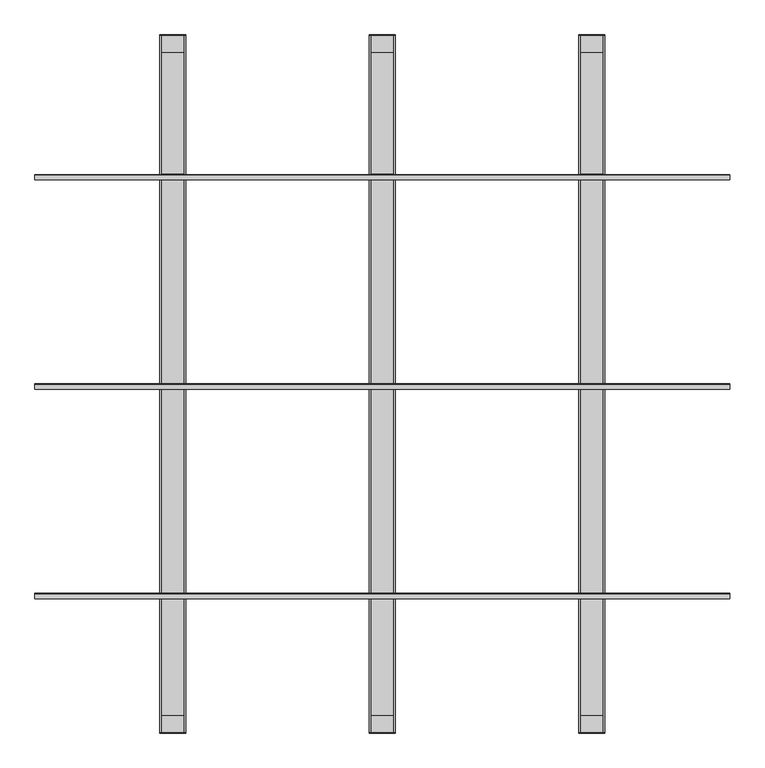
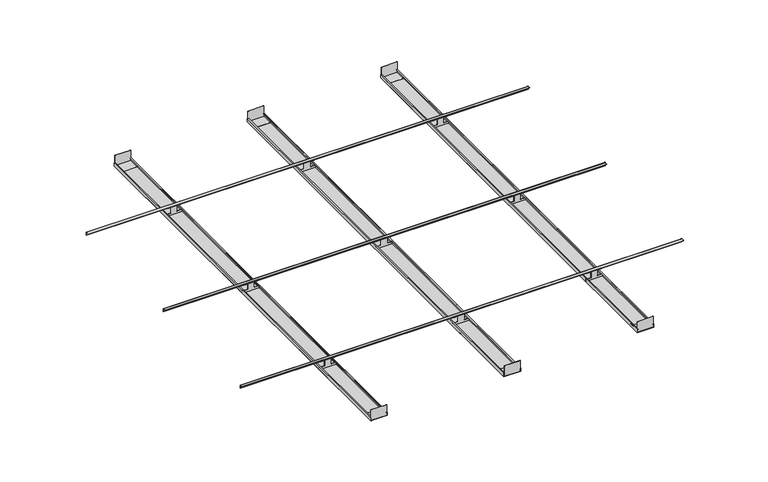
"""IFC4 building model written with IfcOpenShell, lengths in millimetres: proxy geometry, durlum_S5-150_RHOMBOS : durlum_S5-150_RHOMBOS."""

from ifc_helpers import new_model, si_unit, point, frame, frame_2d, origin, place, context, project, spatial, polyline, circle_curve, trimmed, segment, composite_curve, outline, extrude, source, transform, mapped, element, save


def generic_models_2a6c8002(model_context):
    return source(origin(), model_context, "Body", "SweptSolid", [
        extrude(outline(polyline([(72.0, 1900.0), (72.0, 1998.75), (73.25, 1998.75), (73.25, 1900.0), (72.0, 1900.0)])), frame((0.0, 0.0, 3801.4976307), z_axis=(0.0, 0.0, 1.0), x_axis=(1.0, 0.0, 0.0)), (0.0, 0.0, 1.0), 22.9482224),
        extrude(outline(polyline([(-72.0, 1900.0), (-73.25, 1900.0), (-73.25, 1998.75), (-72.0, 1998.75), (-72.0, 1900.0)])), frame((0.0, 0.0, 3801.4976307), z_axis=(0.0, 0.0, 1.0), x_axis=(1.0, 0.0, 0.0)), (0.0, 0.0, 1.0), 22.9482224),
        extrude(outline(polyline([(2000.0, 3801.4976307), (1900.0, 3801.4976307), (1900.0, 3802.7476307), (1998.75, 3802.7476307), (1998.75, 3901.4976307), (2000.0, 3901.4976307), (2000.0, 3801.4976307)])), frame((-72.0, 0.0, 0.0), z_axis=(1.0, 0.0, 0.0), x_axis=(0.0, 1.0, 0.0)), (0.0, 0.0, 1.0), 144.0),
        extrude(outline(polyline([(-72.0, -1900.0), (-72.0, -1998.75), (-73.25, -1998.75), (-73.25, -1900.0), (-72.0, -1900.0)])), frame((0.0, 0.0, 3801.4981533), z_axis=(0.0, 0.0, 1.0), x_axis=(1.0, 0.0, 0.0)), (0.0, 0.0, 1.0), 22.9482224),
        extrude(outline(polyline([(72.0, -1900.0), (73.25, -1900.0), (73.25, -1998.75), (72.0, -1998.75), (72.0, -1900.0)])), frame((0.0, 0.0, 3801.4981533), z_axis=(0.0, 0.0, 1.0), x_axis=(1.0, 0.0, 0.0)), (0.0, 0.0, 1.0), 22.9482224),
        extrude(outline(polyline([(-2000.0, 3801.4981533), (-2000.0, 3901.4981533), (-1998.75, 3901.4981533), (-1998.75, 3802.7481533), (-1900.0, 3802.7481533), (-1900.0, 3801.4981533), (-2000.0, 3801.4981533)])), frame((-72.0, 0.0, 0.0), z_axis=(1.0, 0.0, 0.0), x_axis=(0.0, 1.0, 0.0)), (0.0, 0.0, 1.0), 144.0),
        extrude(outline(polyline([(1128.0, -1900.0), (1128.0, -1998.75), (1126.75, -1998.75), (1126.75, -1900.0), (1128.0, -1900.0)])), frame((0.0, 0.0, 3801.4963067), z_axis=(0.0, 0.0, 1.0), x_axis=(1.0, 0.0, 0.0)), (0.0, 0.0, 1.0), 22.9482224),
        extrude(outline(polyline([(1272.0, -1900.0), (1273.25, -1900.0), (1273.25, -1998.75), (1272.0, -1998.75), (1272.0, -1900.0)])), frame((0.0, 0.0, 3801.4963067), z_axis=(0.0, 0.0, 1.0), x_axis=(1.0, 0.0, 0.0)), (0.0, 0.0, 1.0), 22.9482224),
        extrude(outline(polyline([(-2000.0, 3801.4963067), (-2000.0, 3901.4963067), (-1998.75, 3901.4963067), (-1998.75, 3802.7463067), (-1900.0, 3802.7463067), (-1900.0, 3801.4963067), (-2000.0, 3801.4963067)])), frame((1128.0, 0.0, 0.0), z_axis=(1.0, 0.0, 0.0), x_axis=(0.0, 1.0, 0.0)), (0.0, 0.0, 1.0), 144.0),
        extrude(outline(polyline([(1272.0, 1900.0), (1272.0, 1998.75), (1273.25, 1998.75), (1273.25, 1900.0), (1272.0, 1900.0)])), frame((0.0, 0.0, 3801.4952614), z_axis=(0.0, 0.0, 1.0), x_axis=(1.0, 0.0, 0.0)), (0.0, 0.0, 1.0), 22.9482224),
        extrude(outline(polyline([(1128.0, 1900.0), (1126.75, 1900.0), (1126.75, 1998.75), (1128.0, 1998.75), (1128.0, 1900.0)])), frame((0.0, 0.0, 3801.4952614), z_axis=(0.0, 0.0, 1.0), x_axis=(1.0, 0.0, 0.0)), (0.0, 0.0, 1.0), 22.9482224),
        extrude(outline(polyline([(2000.0, 3801.4952614), (1900.0, 3801.4952614), (1900.0, 3802.7452614), (1998.75, 3802.7452614), (1998.75, 3901.4952614), (2000.0, 3901.4952614), (2000.0, 3801.4952614)])), frame((1128.0, 0.0, 0.0), z_axis=(1.0, 0.0, 0.0), x_axis=(0.0, 1.0, 0.0)), (0.0, 0.0, 1.0), 144.0),
        extrude(outline(polyline([(-1272.0, -1900.0), (-1272.0, -1998.75), (-1273.25, -1998.75), (-1273.25, -1900.0), (-1272.0, -1900.0)])), frame((0.0, 0.0, 3801.5), z_axis=(0.0, 0.0, 1.0), x_axis=(1.0, 0.0, 0.0)), (0.0, 0.0, 1.0), 22.9482224),
        extrude(outline(polyline([(-1128.0, -1900.0), (-1126.75, -1900.0), (-1126.75, -1998.75), (-1128.0, -1998.75), (-1128.0, -1900.0)])), frame((0.0, 0.0, 3801.5), z_axis=(0.0, 0.0, 1.0), x_axis=(1.0, 0.0, 0.0)), (0.0, 0.0, 1.0), 22.9482224),
        extrude(outline(polyline([(-2000.0, 3801.5), (-2000.0, 3901.5), (-1998.75, 3901.5), (-1998.75, 3802.75), (-1900.0, 3802.75), (-1900.0, 3801.5), (-2000.0, 3801.5)])), frame((-1272.0, 0.0, 0.0), z_axis=(1.0, 0.0, 0.0), x_axis=(0.0, 1.0, 0.0)), (0.0, 0.0, 1.0), 144.0),
        extrude(outline(polyline([(-1128.0, 1900.0), (-1128.0, 1998.75), (-1126.75, 1998.75), (-1126.75, 1900.0), (-1128.0, 1900.0)])), frame((0.0, 0.0, 3801.5), z_axis=(0.0, 0.0, 1.0), x_axis=(1.0, 0.0, 0.0)), (0.0, 0.0, 1.0), 22.9482224),
        extrude(outline(polyline([(-1272.0, 1900.0), (-1273.25, 1900.0), (-1273.25, 1998.75), (-1272.0, 1998.75), (-1272.0, 1900.0)])), frame((0.0, 0.0, 3801.5), z_axis=(0.0, 0.0, 1.0), x_axis=(1.0, 0.0, 0.0)), (0.0, 0.0, 1.0), 22.9482224),
        extrude(outline(polyline([(2000.0, 3801.5), (1900.0, 3801.5), (1900.0, 3802.75), (1998.75, 3802.75), (1998.75, 3901.5), (2000.0, 3901.5), (2000.0, 3801.5)])), frame((-1272.0, 0.0, 0.0), z_axis=(1.0, 0.0, 0.0), x_axis=(0.0, 1.0, 0.0)), (0.0, 0.0, 1.0), 144.0),
        extrude(outline(polyline([(3825.0, 73.5823641), (3825.0, 72.3323641), (3820.9590465, 72.3323641), (3820.9590465, 28.0249317), (3872.9865783, 28.0249317), (3872.9865783, 62.346391), (3900.0, 62.346391), (3900.0, -62.346391), (3872.9865783, -62.346391), (3872.9865783, -28.0249317), (3820.9590465, -28.0249317), (3820.9590465, -72.3323641), (3825.0, -72.3323641), (3825.0, -73.5823641), (3800.0, -73.5823641), (3800.0, 73.5823641), (3825.0, 73.5823641)])), frame((0.0, 0.0, 0.0), z_axis=(0.0, 1.0, 0.0), x_axis=(0.0, 0.0, 1.0)), (0.0, 0.0, 1.0), 1.9953756),
        extrude(outline(polyline([(3825.0, -1126.4176359), (3825.0, -1127.6676359), (3820.9590465, -1127.6676359), (3820.9590465, -1171.9750683), (3872.9865783, -1171.9750683), (3872.9865783, -1137.653609), (3900.0, -1137.653609), (3900.0, -1262.346391), (3872.9865783, -1262.346391), (3872.9865783, -1228.0249317), (3820.9590465, -1228.0249317), (3820.9590465, -1272.3323641), (3825.0, -1272.3323641), (3825.0, -1273.5823641), (3800.0, -1273.5823641), (3800.0, -1126.4176359), (3825.0, -1126.4176359)])), frame((0.0, 0.0, 0.0), z_axis=(0.0, 1.0, 0.0), x_axis=(0.0, 0.0, 1.0)), (0.0, 0.0, 1.0), 1.9953756),
        extrude(outline(polyline([(3825.0, 1273.5823641), (3825.0, 1272.3323641), (3820.9590465, 1272.3323641), (3820.9590465, 1228.0249317), (3872.9865783, 1228.0249317), (3872.9865783, 1262.346391), (3900.0, 1262.346391), (3900.0, 1137.653609), (3872.9865783, 1137.653609), (3872.9865783, 1171.9750683), (3820.9590465, 1171.9750683), (3820.9590465, 1127.6676359), (3825.0, 1127.6676359), (3825.0, 1126.4176359), (3800.0, 1126.4176359), (3800.0, 1273.5823641), (3825.0, 1273.5823641)])), frame((0.0, 0.0, 0.0), z_axis=(0.0, 1.0, 0.0), x_axis=(0.0, 0.0, 1.0)), (0.0, 0.0, 1.0), 1.9953756),
        extrude(outline(composite_curve([segment(polyline([(-2.0, 3876.1), (-2.0, 3902.0)]), True, "CONTINUOUS"), segment(trimmed(circle_curve(frame_2d((-4.0, 3902.0)), 2.0), [point((-2.0, 3902.0))], [point((-4.0, 3904.0))], True, "CARTESIAN"), True, "CONTINUOUS"), segment(polyline([(-4.0, 3904.0), (-29.9, 3904.0), (-29.9, 3906.0), (-4.0, 3906.0)]), True, "CONTINUOUS"), segment(trimmed(circle_curve(frame_2d((-4.0, 3902.0)), 4.0), [point((-4.0, 3906.0))], [point((0.0, 3902.0))], False, "CARTESIAN"), True, "CONTINUOUS"), segment(polyline([(0.0, 3902.0), (0.0, 3876.1), (-2.0, 3876.1)]), True, "CONTINUOUS")], self_intersect=False)), frame((-1990.0, 0.0, 0.0), z_axis=(1.0, 0.0, 0.0), x_axis=(0.0, 1.0, 0.0)), (0.0, 0.0, 1.0), 3980.0),
        extrude(outline(polyline([(3825.0, 73.5823641), (3825.0, 72.3323641), (3820.9590465, 72.3323641), (3820.9590465, 28.0249317), (3872.9865783, 28.0249317), (3872.9865783, 62.346391), (3900.0, 62.346391), (3900.0, -62.346391), (3872.9865783, -62.346391), (3872.9865783, -28.0249317), (3820.9590465, -28.0249317), (3820.9590465, -72.3323641), (3825.0, -72.3323641), (3825.0, -73.5823641), (3800.0, -73.5823641), (3800.0, 73.5823641), (3825.0, 73.5823641)])), frame((0.0, -1200.0, 0.0), z_axis=(0.0, 1.0, 0.0), x_axis=(0.0, 0.0, 1.0)), (0.0, 0.0, 1.0), 1.9953756),
        extrude(outline(polyline([(3825.0, -1126.4176359), (3825.0, -1127.6676359), (3820.9590465, -1127.6676359), (3820.9590465, -1171.9750683), (3872.9865783, -1171.9750683), (3872.9865783, -1137.653609), (3900.0, -1137.653609), (3900.0, -1262.346391), (3872.9865783, -1262.346391), (3872.9865783, -1228.0249317), (3820.9590465, -1228.0249317), (3820.9590465, -1272.3323641), (3825.0, -1272.3323641), (3825.0, -1273.5823641), (3800.0, -1273.5823641), (3800.0, -1126.4176359), (3825.0, -1126.4176359)])), frame((0.0, -1200.0, 0.0), z_axis=(0.0, 1.0, 0.0), x_axis=(0.0, 0.0, 1.0)), (0.0, 0.0, 1.0), 1.9953756),
        extrude(outline(polyline([(3825.0, 1273.5823641), (3825.0, 1272.3323641), (3820.9590465, 1272.3323641), (3820.9590465, 1228.0249317), (3872.9865783, 1228.0249317), (3872.9865783, 1262.346391), (3900.0, 1262.346391), (3900.0, 1137.653609), (3872.9865783, 1137.653609), (3872.9865783, 1171.9750683), (3820.9590465, 1171.9750683), (3820.9590465, 1127.6676359), (3825.0, 1127.6676359), (3825.0, 1126.4176359), (3800.0, 1126.4176359), (3800.0, 1273.5823641), (3825.0, 1273.5823641)])), frame((0.0, -1200.0, 0.0), z_axis=(0.0, 1.0, 0.0), x_axis=(0.0, 0.0, 1.0)), (0.0, 0.0, 1.0), 1.9953756),
        extrude(outline(composite_curve([segment(polyline([(-1202.0, 3876.1), (-1202.0, 3902.0)]), True, "CONTINUOUS"), segment(trimmed(circle_curve(frame_2d((-1204.0, 3902.0)), 2.0), [point((-1202.0, 3902.0))], [point((-1204.0, 3904.0))], True, "CARTESIAN"), True, "CONTINUOUS"), segment(polyline([(-1204.0, 3904.0), (-1229.9, 3904.0), (-1229.9, 3906.0), (-1204.0, 3906.0)]), True, "CONTINUOUS"), segment(trimmed(circle_curve(frame_2d((-1204.0, 3902.0)), 4.0), [point((-1204.0, 3906.0))], [point((-1200.0, 3902.0))], False, "CARTESIAN"), True, "CONTINUOUS"), segment(polyline([(-1200.0, 3902.0), (-1200.0, 3876.1), (-1202.0, 3876.1)]), True, "CONTINUOUS")], self_intersect=False)), frame((-1990.0, 0.0, 0.0), z_axis=(1.0, 0.0, 0.0), x_axis=(0.0, 1.0, 0.0)), (0.0, 0.0, 1.0), 3980.0),
        extrude(outline(polyline([(3830.0, -75.0), (3800.0, -75.0), (3800.0, 75.0), (3830.0, 75.0), (3830.0, 65.0), (3829.0, 65.0), (3829.0, 74.0), (3801.0, 74.0), (3801.0, -74.0), (3829.0, -74.0), (3829.0, -65.0), (3830.0, -65.0), (3830.0, -75.0)])), frame((0.0, -2000.0, 0.0), z_axis=(0.0, 1.0, 0.0), x_axis=(0.0, 0.0, 1.0)), (0.0, 0.0, 1.0), 4000.0),
        extrude(outline(polyline([(3830.0, -1275.0), (3800.0, -1275.0), (3800.0, -1125.0), (3830.0, -1125.0), (3830.0, -1135.0), (3829.0, -1135.0), (3829.0, -1126.0), (3801.0, -1126.0), (3801.0, -1274.0), (3829.0, -1274.0), (3829.0, -1265.0), (3830.0, -1265.0), (3830.0, -1275.0)])), frame((0.0, -2000.0, 0.0), z_axis=(0.0, 1.0, 0.0), x_axis=(0.0, 0.0, 1.0)), (0.0, 0.0, 1.0), 4000.0),
        extrude(outline(polyline([(3830.0, 1125.0), (3800.0, 1125.0), (3800.0, 1275.0), (3830.0, 1275.0), (3830.0, 1265.0), (3829.0, 1265.0), (3829.0, 1274.0), (3801.0, 1274.0), (3801.0, 1126.0), (3829.0, 1126.0), (3829.0, 1135.0), (3830.0, 1135.0), (3830.0, 1125.0)])), frame((0.0, -2000.0, 0.0), z_axis=(0.0, 1.0, 0.0), x_axis=(0.0, 0.0, 1.0)), (0.0, 0.0, 1.0), 4000.0),
        extrude(outline(polyline([(3825.0, 73.5823641), (3825.0, 72.3323641), (3820.9590465, 72.3323641), (3820.9590465, 28.0249317), (3872.9865783, 28.0249317), (3872.9865783, 62.346391), (3900.0, 62.346391), (3900.0, -62.346391), (3872.9865783, -62.346391), (3872.9865783, -28.0249317), (3820.9590465, -28.0249317), (3820.9590465, -72.3323641), (3825.0, -72.3323641), (3825.0, -73.5823641), (3800.0, -73.5823641), (3800.0, 73.5823641), (3825.0, 73.5823641)])), frame((0.0, 1200.0, 0.0), z_axis=(0.0, 1.0, 0.0), x_axis=(0.0, 0.0, 1.0)), (0.0, 0.0, 1.0), 1.9953756),
        extrude(outline(polyline([(3825.0, -1126.4176359), (3825.0, -1127.6676359), (3820.9590465, -1127.6676359), (3820.9590465, -1171.9750683), (3872.9865783, -1171.9750683), (3872.9865783, -1137.653609), (3900.0, -1137.653609), (3900.0, -1262.346391), (3872.9865783, -1262.346391), (3872.9865783, -1228.0249317), (3820.9590465, -1228.0249317), (3820.9590465, -1272.3323641), (3825.0, -1272.3323641), (3825.0, -1273.5823641), (3800.0, -1273.5823641), (3800.0, -1126.4176359), (3825.0, -1126.4176359)])), frame((0.0, 1200.0, 0.0), z_axis=(0.0, 1.0, 0.0), x_axis=(0.0, 0.0, 1.0)), (0.0, 0.0, 1.0), 1.9953756),
        extrude(outline(polyline([(3825.0, 1273.5823641), (3825.0, 1272.3323641), (3820.9590465, 1272.3323641), (3820.9590465, 1228.0249317), (3872.9865783, 1228.0249317), (3872.9865783, 1262.346391), (3900.0, 1262.346391), (3900.0, 1137.653609), (3872.9865783, 1137.653609), (3872.9865783, 1171.9750683), (3820.9590465, 1171.9750683), (3820.9590465, 1127.6676359), (3825.0, 1127.6676359), (3825.0, 1126.4176359), (3800.0, 1126.4176359), (3800.0, 1273.5823641), (3825.0, 1273.5823641)])), frame((0.0, 1200.0, 0.0), z_axis=(0.0, 1.0, 0.0), x_axis=(0.0, 0.0, 1.0)), (0.0, 0.0, 1.0), 1.9953756),
        extrude(outline(composite_curve([segment(polyline([(1198.0, 3876.1), (1198.0, 3902.0)]), True, "CONTINUOUS"), segment(trimmed(circle_curve(frame_2d((1196.0, 3902.0)), 2.0), [point((1198.0, 3902.0))], [point((1196.0, 3904.0))], True, "CARTESIAN"), True, "CONTINUOUS"), segment(polyline([(1196.0, 3904.0), (1170.1, 3904.0), (1170.1, 3906.0), (1196.0, 3906.0)]), True, "CONTINUOUS"), segment(trimmed(circle_curve(frame_2d((1196.0, 3902.0)), 4.0), [point((1196.0, 3906.0))], [point((1200.0, 3902.0))], False, "CARTESIAN"), True, "CONTINUOUS"), segment(polyline([(1200.0, 3902.0), (1200.0, 3876.1), (1198.0, 3876.1)]), True, "CONTINUOUS")], self_intersect=False)), frame((-1990.0, 0.0, 0.0), z_axis=(1.0, 0.0, 0.0), x_axis=(0.0, 1.0, 0.0)), (0.0, 0.0, 1.0), 3980.0),
    ])


if __name__ == "__main__":
    model = new_model("IFC4")
    model_context = context("Model", 3, world=origin())
    ifc_project = project(units=[si_unit("LENGTHUNIT", "METRE", prefix="MILLI")], contexts=[model_context])
    site = spatial("IfcSite", under=ifc_project)
    building = spatial("IfcBuilding", under=site)
    placement = place(None, origin())
    generic_models_shape = generic_models_2a6c8002(model_context)
    element("IfcBuildingElementProxy", 1, Name="durlum_S5-150_RHOMBOS : durlum_S5-150_RHOMBOS", ObjectType="durlum_S5-150_RHOMBOS : durlum_S5-150_RHOMBOS", at=placement, inside=building, context=model_context, shape_type="MappedRepresentation", body=[
        mapped(generic_models_shape, transform((0.0, 0.0, 0.0), x_axis=(1.0, 0.0, 0.0), y_axis=(0.0, 1.0, 0.0), z_axis=(0.0, 0.0, 1.0))),
    ])
    save(model, "model.ifc")
